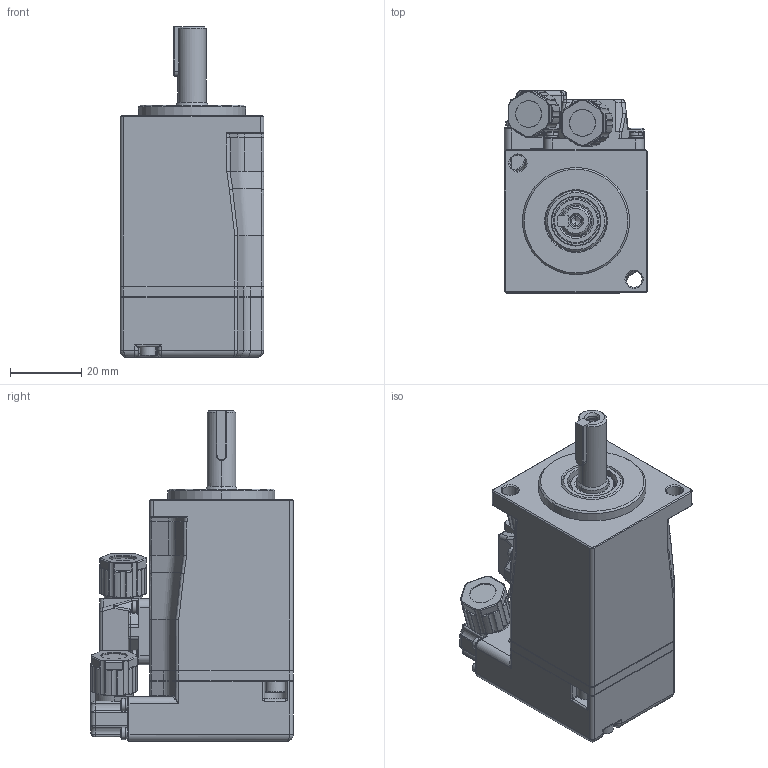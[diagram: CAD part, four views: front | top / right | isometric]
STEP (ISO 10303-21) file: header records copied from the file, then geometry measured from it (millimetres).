
FILE_DESCRIPTION (( 'STEP AP203' ), '1' );
FILE_NAME ('俋倛芞-100W-ACM1﹜ACM1S﹜ACM2-拸价陬.STEP', '2021-11-15T12:28:04', ( '' ), ( '' ), 'SwSTEP 2.0', 'SolidWorks 2020', '' );
FILE_SCHEMA (( 'CONFIG_CONTROL_DESIGN' ));
Length unit declared in the file: millimetre
Products named in the file (1): 俋倛芞-100W-ACM1﹜ACM1S﹜ACM2-拸价陬
Bounding box: 40.2 x 56.7 x 92.7 mm (x, y, z)
Volume: 116971 mm3; surface area: 20771.3 mm2
Topology: 13 solids, 23 shells, 1558 faces, 3685 edges, 2180 vertices
Faces by surface type: plane 635, cylinder 517, torus 201, bspline 109, cone 74, sphere 22
Entity records: 51634 total; most frequent: CARTESIAN_POINT 17005, ORIENTED_EDGE 7328, DIRECTION 7177, EDGE_CURVE 3664, AXIS2_PLACEMENT_3D 2899, VERTEX_POINT 2180, EDGE_LOOP 1636, ADVANCED_FACE 1558
